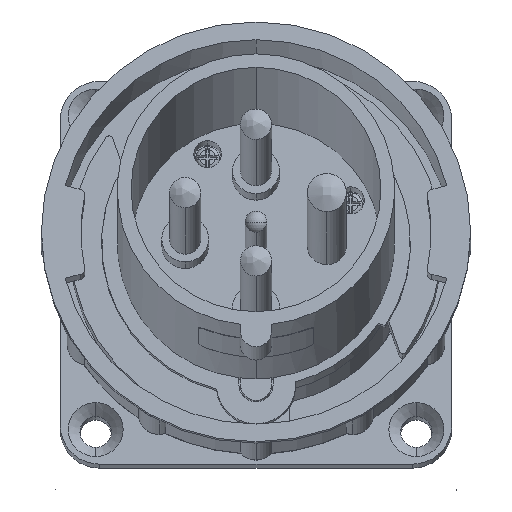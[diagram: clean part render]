
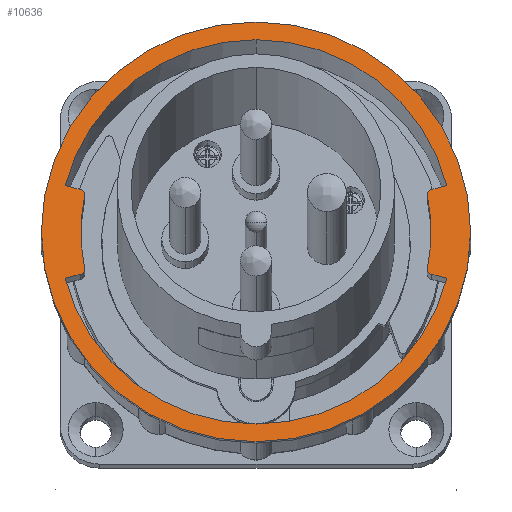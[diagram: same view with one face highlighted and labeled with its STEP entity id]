
A CAD part, top view. The second image highlights one B-rep face of the part: STEP entity #10636.
In plain terms, the highlighted planar face has unit normal (0, 0.208, 0.978).
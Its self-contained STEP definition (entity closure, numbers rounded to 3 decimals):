
#85 = CARTESIAN_POINT ( 'NONE',  ( 0., 75.139, 37.201 ) ) ;
#86 = DIRECTION ( 'NONE',  ( 0., 0.208, 0.978 ) ) ;
#87 = DIRECTION ( 'NONE',  ( 0., -0.978, 0.208 ) ) ;
#94 = CARTESIAN_POINT ( 'NONE',  ( 0., 75.139, 37.201 ) ) ;
#98 = DIRECTION ( 'NONE',  ( 0., 0.208, 0.978 ) ) ;
#99 = DIRECTION ( 'NONE',  ( 0., 0.978, -0.208 ) ) ;
#109 = CARTESIAN_POINT ( 'NONE',  ( 0., 75.139, 37.201 ) ) ;
#110 = DIRECTION ( 'NONE',  ( 0., 0.208, 0.978 ) ) ;
#111 = DIRECTION ( 'NONE',  ( 0., -0.978, 0.208 ) ) ;
#959 = CIRCLE ( 'NONE', #7312, 44.55 ) ;
#991 = CIRCLE ( 'NONE', #6817, 54.55 ) ;
#992 = CIRCLE ( 'NONE', #7290, 1.5 ) ;
#993 = CIRCLE ( 'NONE', #6915, 44.55 ) ;
#994 = CIRCLE ( 'NONE', #6895, 49.95 ) ;
#995 = CIRCLE ( 'NONE', #6980, 1.5 ) ;
#996 = CIRCLE ( 'NONE', #6829, 1.5 ) ;
#997 = CIRCLE ( 'NONE', #6963, 49.95 ) ;
#998 = CIRCLE ( 'NONE', #7014, 1.5 ) ;
#2056 = CARTESIAN_POINT ( 'NONE',  ( 0., 128.499, 25.868 ) ) ;
#2062 = CARTESIAN_POINT ( 'NONE',  ( 0., 21.779, 48.534 ) ) ;
#2063 = CARTESIAN_POINT ( 'NONE',  ( -44.678, 64.323, 39.498 ) ) ;
#2064 = CARTESIAN_POINT ( 'NONE',  ( 48.487, 63.401, 39.694 ) ) ;
#2065 = CARTESIAN_POINT ( 'NONE',  ( 44.678, 64.323, 39.498 ) ) ;
#2067 = CARTESIAN_POINT ( 'NONE',  ( 48.487, 86.877, 34.708 ) ) ;
#2068 = CARTESIAN_POINT ( 'NONE',  ( 44.678, 85.955, 34.904 ) ) ;
#2069 = CARTESIAN_POINT ( 'NONE',  ( -44.678, 85.955, 34.904 ) ) ;
#2070 = CARTESIAN_POINT ( 'NONE',  ( -43.571, 66.053, 39.131 ) ) ;
#2071 = CARTESIAN_POINT ( 'NONE',  ( -43.571, 84.224, 35.272 ) ) ;
#2077 = CARTESIAN_POINT ( 'NONE',  ( 0., 26.279, 47.579 ) ) ;
#2081 = CARTESIAN_POINT ( 'NONE',  ( -48.487, 63.401, 39.694 ) ) ;
#2086 = CARTESIAN_POINT ( 'NONE',  ( -48.487, 86.877, 34.708 ) ) ;
#2094 = CARTESIAN_POINT ( 'NONE',  ( 0., 123.999, 26.824 ) ) ;
#2296 = CARTESIAN_POINT ( 'NONE',  ( 43.571, 66.053, 39.131 ) ) ;
#2297 = CARTESIAN_POINT ( 'NONE',  ( 43.571, 84.224, 35.272 ) ) ;
#3374 = CARTESIAN_POINT ( 'NONE',  ( 0., 75.139, 37.201 ) ) ;
#3375 = DIRECTION ( 'NONE',  ( 0., 0.208, 0.978 ) ) ;
#3376 = DIRECTION ( 'NONE',  ( 0., -0.978, 0.208 ) ) ;
#3890 = CARTESIAN_POINT ( 'NONE',  ( 0., 75.139, 37.201 ) ) ;
#3891 = DIRECTION ( 'NONE',  ( 0., 0.208, 0.978 ) ) ;
#3892 = DIRECTION ( 'NONE',  ( 0., -0.978, 0.208 ) ) ;
#3893 = CARTESIAN_POINT ( 'NONE',  ( -45.038, 84.53, 35.207 ) ) ;
#3894 = DIRECTION ( 'NONE',  ( 0., 0.208, 0.978 ) ) ;
#3895 = DIRECTION ( 'NONE',  ( 0., 0.978, -0.208 ) ) ;
#3896 = CARTESIAN_POINT ( 'NONE',  ( 0., 75.139, 37.201 ) ) ;
#3897 = DIRECTION ( 'NONE',  ( 0., 0.208, 0.978 ) ) ;
#3898 = DIRECTION ( 'NONE',  ( 0., -0.978, 0.208 ) ) ;
#3899 = CARTESIAN_POINT ( 'NONE',  ( 0., 75.139, 37.201 ) ) ;
#3900 = LINE ( 'NONE', #3901, #7226 ) ;
#3901 = CARTESIAN_POINT ( 'NONE',  ( -43.245, 85.608, 34.978 ) ) ;
#3902 = DIRECTION ( 'NONE',  ( 0.971, -0.235, 0.05 ) ) ;
#3903 = DIRECTION ( 'NONE',  ( 0., 0.208, 0.978 ) ) ;
#3904 = DIRECTION ( 'NONE',  ( 0., -0.978, 0.208 ) ) ;
#3905 = CARTESIAN_POINT ( 'NONE',  ( 45.038, 84.53, 35.207 ) ) ;
#3906 = LINE ( 'NONE', #3907, #7249 ) ;
#3907 = CARTESIAN_POINT ( 'NONE',  ( 43.245, 85.608, 34.978 ) ) ;
#3908 = DIRECTION ( 'NONE',  ( 0.971, 0.235, -0.05 ) ) ;
#3909 = DIRECTION ( 'NONE',  ( 0., 0.208, 0.978 ) ) ;
#3910 = DIRECTION ( 'NONE',  ( 0., 0.978, -0.208 ) ) ;
#3911 = CARTESIAN_POINT ( 'NONE',  ( 45.038, 65.747, 39.196 ) ) ;
#3912 = DIRECTION ( 'NONE',  ( 0., 0.208, 0.978 ) ) ;
#3913 = DIRECTION ( 'NONE',  ( 0., 0.978, -0.208 ) ) ;
#3914 = CARTESIAN_POINT ( 'NONE',  ( 0., 75.139, 37.201 ) ) ;
#3915 = LINE ( 'NONE', #3916, #6920 ) ;
#3916 = CARTESIAN_POINT ( 'NONE',  ( 43.245, 64.67, 39.425 ) ) ;
#3917 = DIRECTION ( 'NONE',  ( -0.971, 0.235, -0.05 ) ) ;
#3918 = DIRECTION ( 'NONE',  ( 0., 0.208, 0.978 ) ) ;
#3919 = DIRECTION ( 'NONE',  ( 0., 0.978, -0.208 ) ) ;
#3920 = CARTESIAN_POINT ( 'NONE',  ( -45.038, 65.747, 39.196 ) ) ;
#3921 = LINE ( 'NONE', #3922, #7196 ) ;
#3922 = CARTESIAN_POINT ( 'NONE',  ( -43.245, 64.67, 39.425 ) ) ;
#3923 = DIRECTION ( 'NONE',  ( -0.971, -0.235, 0.05 ) ) ;
#3927 = DIRECTION ( 'NONE',  ( 0., 0.208, 0.978 ) ) ;
#3928 = DIRECTION ( 'NONE',  ( 0., 0.978, -0.208 ) ) ;
#4716 = PLANE ( 'NONE',  #5520 ) ;
#4753 = CARTESIAN_POINT ( 'NONE',  ( 0., 128.499, 25.868 ) ) ;
#4754 = DIRECTION ( 'NONE',  ( 0., -0.208, -0.978 ) ) ;
#4755 = DIRECTION ( 'NONE',  ( 0., 0.978, -0.208 ) ) ;
#5519 = FACE_OUTER_BOUND ( 'NONE', #9837, .T. ) ;
#5520 = AXIS2_PLACEMENT_3D ( 'NONE', #4753, #4754, #4755 ) ;
#6515 = AXIS2_PLACEMENT_3D ( 'NONE', #94, #98, #99 ) ;
#6603 = AXIS2_PLACEMENT_3D ( 'NONE', #109, #110, #111 ) ;
#6633 = AXIS2_PLACEMENT_3D ( 'NONE', #85, #86, #87 ) ;
#6817 = AXIS2_PLACEMENT_3D ( 'NONE', #3890, #3891, #3892 ) ;
#6829 = AXIS2_PLACEMENT_3D ( 'NONE', #3911, #3912, #3913 ) ;
#6895 = AXIS2_PLACEMENT_3D ( 'NONE', #3899, #3903, #3904 ) ;
#6915 = AXIS2_PLACEMENT_3D ( 'NONE', #3896, #3897, #3898 ) ;
#6920 = VECTOR ( 'NONE', #3917, 1000. ) ;
#6963 = AXIS2_PLACEMENT_3D ( 'NONE', #3914, #3918, #3919 ) ;
#6980 = AXIS2_PLACEMENT_3D ( 'NONE', #3905, #3909, #3910 ) ;
#7014 = AXIS2_PLACEMENT_3D ( 'NONE', #3920, #3927, #3928 ) ;
#7133 = FACE_BOUND ( 'NONE', #9836, .T. ) ;
#7196 = VECTOR ( 'NONE', #3923, 1000. ) ;
#7226 = VECTOR ( 'NONE', #3902, 1000. ) ;
#7249 = VECTOR ( 'NONE', #3908, 1000. ) ;
#7290 = AXIS2_PLACEMENT_3D ( 'NONE', #3893, #3894, #3895 ) ;
#7312 = AXIS2_PLACEMENT_3D ( 'NONE', #3374, #3375, #3376 ) ;
#7634 = EDGE_CURVE ( 'NONE', #9349, #9341, #11084, .T. ) ;
#7638 = EDGE_CURVE ( 'NONE', #9336, #9332, #11086, .T. ) ;
#7642 = EDGE_CURVE ( 'NONE', #9317, #9311, #11088, .T. ) ;
#9311 = VERTEX_POINT ( 'NONE', #2056 ) ;
#9317 = VERTEX_POINT ( 'NONE', #2062 ) ;
#9318 = VERTEX_POINT ( 'NONE', #2063 ) ;
#9319 = VERTEX_POINT ( 'NONE', #2064 ) ;
#9320 = VERTEX_POINT ( 'NONE', #2065 ) ;
#9322 = VERTEX_POINT ( 'NONE', #2067 ) ;
#9323 = VERTEX_POINT ( 'NONE', #2068 ) ;
#9324 = VERTEX_POINT ( 'NONE', #2069 ) ;
#9325 = VERTEX_POINT ( 'NONE', #2070 ) ;
#9326 = VERTEX_POINT ( 'NONE', #2071 ) ;
#9332 = VERTEX_POINT ( 'NONE', #2077 ) ;
#9336 = VERTEX_POINT ( 'NONE', #2081 ) ;
#9341 = VERTEX_POINT ( 'NONE', #2086 ) ;
#9349 = VERTEX_POINT ( 'NONE', #2094 ) ;
#9551 = VERTEX_POINT ( 'NONE', #2296 ) ;
#9552 = VERTEX_POINT ( 'NONE', #2297 ) ;
#9836 = EDGE_LOOP ( 'NONE', ( #11345, #11347, #11346, #11348, #11349, #11351, #11350, #11352, #11353, #11355, #11354, #11356, #11357, #11358 ) ) ;
#9837 = EDGE_LOOP ( 'NONE', ( #11360, #11359 ) ) ;
#10332 = EDGE_CURVE ( 'NONE', #9551, #9552, #959, .T. ) ;
#10405 = EDGE_CURVE ( 'NONE', #9311, #9317, #991, .T. ) ;
#10406 = EDGE_CURVE ( 'NONE', #9326, #9324, #992, .T. ) ;
#10407 = EDGE_CURVE ( 'NONE', #9326, #9325, #993, .T. ) ;
#10408 = EDGE_CURVE ( 'NONE', #9341, #9324, #3900, .T. ) ;
#10409 = EDGE_CURVE ( 'NONE', #9322, #9349, #994, .T. ) ;
#10410 = EDGE_CURVE ( 'NONE', #9323, #9322, #3906, .T. ) ;
#10411 = EDGE_CURVE ( 'NONE', #9323, #9552, #995, .T. ) ;
#10412 = EDGE_CURVE ( 'NONE', #9551, #9320, #996, .T. ) ;
#10413 = EDGE_CURVE ( 'NONE', #9319, #9320, #3915, .T. ) ;
#10414 = EDGE_CURVE ( 'NONE', #9332, #9319, #997, .T. ) ;
#10415 = EDGE_CURVE ( 'NONE', #9318, #9336, #3921, .T. ) ;
#10417 = EDGE_CURVE ( 'NONE', #9318, #9325, #998, .T. ) ;
#10636 = ADVANCED_FACE ( 'NONE', ( #7133, #5519 ), #4716, .F. ) ;
#11084 = CIRCLE ( 'NONE', #6633, 49.95 ) ;
#11086 = CIRCLE ( 'NONE', #6515, 49.95 ) ;
#11088 = CIRCLE ( 'NONE', #6603, 54.55 ) ;
#11345 = ORIENTED_EDGE ( 'NONE', *, *, #10407, .F. ) ;
#11346 = ORIENTED_EDGE ( 'NONE', *, *, #10408, .F. ) ;
#11347 = ORIENTED_EDGE ( 'NONE', *, *, #10406, .T. ) ;
#11348 = ORIENTED_EDGE ( 'NONE', *, *, #7634, .F. ) ;
#11349 = ORIENTED_EDGE ( 'NONE', *, *, #10409, .F. ) ;
#11350 = ORIENTED_EDGE ( 'NONE', *, *, #10411, .T. ) ;
#11351 = ORIENTED_EDGE ( 'NONE', *, *, #10410, .F. ) ;
#11352 = ORIENTED_EDGE ( 'NONE', *, *, #10332, .F. ) ;
#11353 = ORIENTED_EDGE ( 'NONE', *, *, #10412, .T. ) ;
#11354 = ORIENTED_EDGE ( 'NONE', *, *, #10414, .F. ) ;
#11355 = ORIENTED_EDGE ( 'NONE', *, *, #10413, .F. ) ;
#11356 = ORIENTED_EDGE ( 'NONE', *, *, #7638, .F. ) ;
#11357 = ORIENTED_EDGE ( 'NONE', *, *, #10415, .F. ) ;
#11358 = ORIENTED_EDGE ( 'NONE', *, *, #10417, .T. ) ;
#11359 = ORIENTED_EDGE ( 'NONE', *, *, #10405, .T. ) ;
#11360 = ORIENTED_EDGE ( 'NONE', *, *, #7642, .T. ) ;
